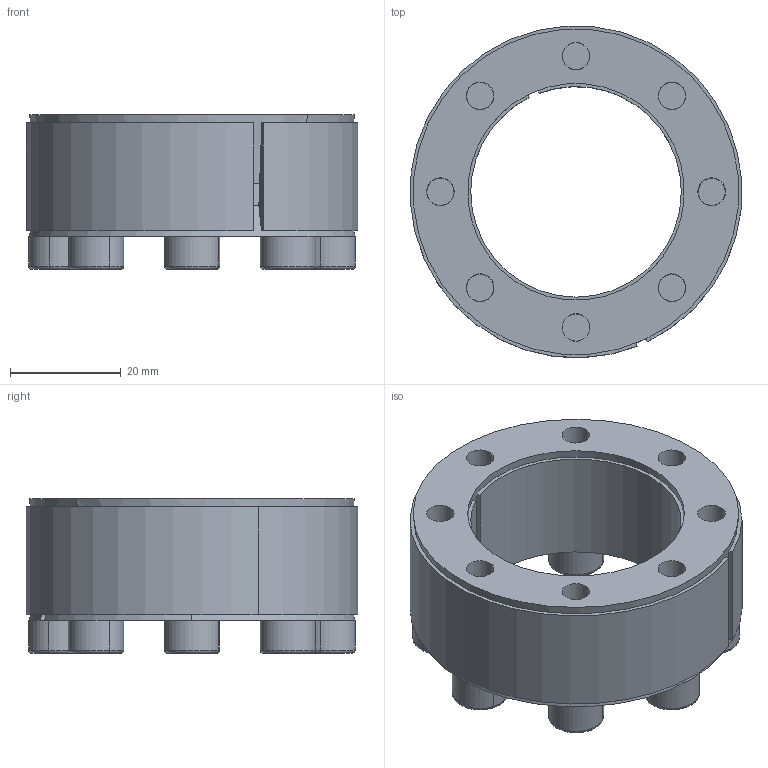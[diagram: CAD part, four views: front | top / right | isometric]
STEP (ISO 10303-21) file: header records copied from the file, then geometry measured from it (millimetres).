
FILE_DESCRIPTION (( 'STEP AP214' ), '1' );
FILE_NAME ('CONEX-L-38x60.step', '2013-04-06T13:22:44', ( 'Pc' ), ( '' ), 'SwSTEP 2.0', 'SolidWorks 2013', '' );
FILE_SCHEMA (( 'AUTOMOTIVE_DESIGN' ));
Length unit declared in the file: millimetre
Products named in the file (1): CONEX-L-38x60
Bounding box: 59.84 x 59.9 x 27.97 mm (x, y, z)
Volume: 34695.3 mm3; surface area: 29354.8 mm2
Topology: 11 solids, 11 shells, 289 faces, 663 edges, 396 vertices
Faces by surface type: plane 131, cylinder 78, cone 48, torus 32
Entity records: 11433 total; most frequent: DIRECTION 1532, CARTESIAN_POINT 1369, ORIENTED_EDGE 1294, EDGE_CURVE 647, AXIS2_PLACEMENT_3D 603, VERTEX_POINT 396, EDGE_LOOP 347, LINE 326
